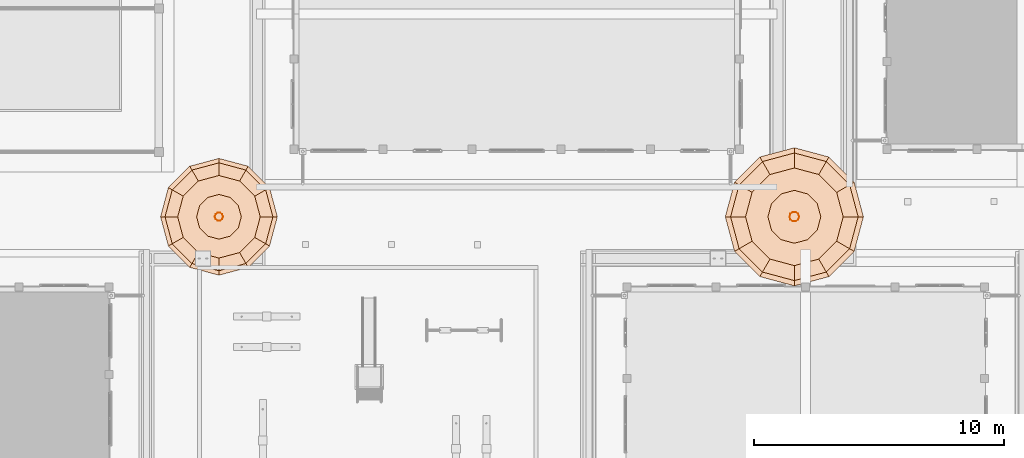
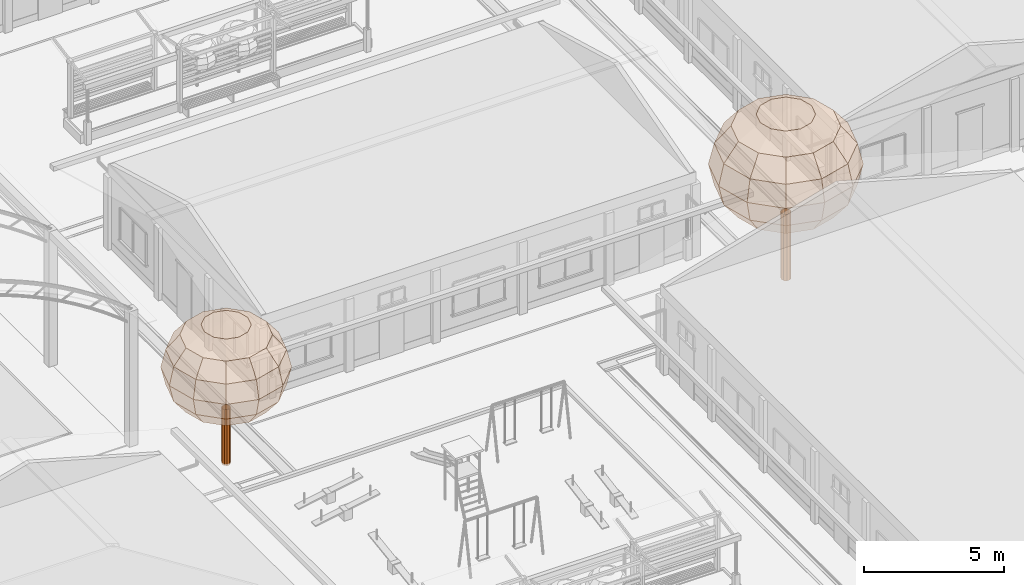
# One storey, part 169 of 177: 4 geographic elements.
"""IFC4 building model written with IfcOpenShell, lengths in metres."""

from ifc_helpers import new_model, si_unit, origin, origin_with_axes, place, context, subcontext, project, spatial, triangles, element, save


model = new_model("IFC4")

# Units and contexts
model_context = context("Model", 3, precision=1e-05, world=origin_with_axes())
body_context = subcontext(model_context, "Body", "Model", "MODEL_VIEW")
ifc_project = project(units=[si_unit("LENGTHUNIT", "METRE"), si_unit("AREAUNIT", "SQUARE_METRE"), si_unit("VOLUMEUNIT", "CUBIC_METRE"), si_unit("PLANEANGLEUNIT", "RADIAN")], contexts=[model_context])

# Site, building, storey
site_placement = place(None, origin_with_axes())
site = spatial("IfcSite", under=ifc_project, at=site_placement, Name="Predio Los Mangos - Morales, San Martín", CompositionType="ELEMENT")
building_placement = place(site_placement, origin())
building = spatial("IfcBuilding", under=site, at=building_placement, Name="Hogar de Refugio Temporal", CompositionType="ELEMENT")
storey_placement = place(building_placement, origin())
storey = spatial("IfcBuildingStorey", under=building, at=storey_placement, Name="NIVEL 1 (NPT +0.00)", CompositionType="ELEMENT", Elevation=0.0)

# Geographic elements
geographic_element_1_placement = place(storey_placement, origin())
element("IfcGeographicElement", 1, at=geographic_element_1_placement, inside=storey, Name="arbol_tronco", ObjectType="Árbol", PredefinedType="NOTDEFINED", context=body_context, shape_type="Tessellation", body=[
    triangles([(29.1624, 90.0, 0.0), (29.1314, 90.0954, 0.0), (29.0502, 90.1544, 0.0), (28.9498, 90.1544, 0.0), (28.8686, 90.0954, 0.0), (28.8376, 90.0, 0.0), (28.8686, 89.9046, 0.0), (28.9498, 89.8456, 0.0), (29.0502, 89.8456, 0.0), (29.1314, 89.9046, 0.0), (29.1624, 90.0, 2.4354), (29.1314, 90.0954, 2.4354), (29.0502, 90.1544, 2.4354), (28.9498, 90.1544, 2.4354), (28.8686, 90.0954, 2.4354), (28.8376, 90.0, 2.4354), (28.8686, 89.9046, 2.4354), (28.9498, 89.8456, 2.4354), (29.0502, 89.8456, 2.4354), (29.1314, 89.9046, 2.4354)], [[1, 2, 12], [2, 3, 13], [3, 4, 14], [4, 5, 15], [5, 6, 16], [6, 7, 17], [7, 8, 18], [8, 9, 19], [9, 10, 20], [10, 1, 11], [1, 12, 11], [2, 13, 12], [3, 14, 13], [4, 15, 14], [5, 16, 15], [6, 17, 16], [7, 18, 17], [8, 19, 18], [9, 20, 19], [10, 11, 20]]),
])
geographic_element_2_placement = place(storey_placement, origin())
element("IfcGeographicElement", 2, at=geographic_element_2_placement, inside=storey, Name="arbol_copa", ObjectType="Árbol", PredefinedType="NOTDEFINED", context=body_context, shape_type="Tessellation", body=[
    triangles([(29.0, 90.0, 6.1697), (29.0, 90.0, 6.1697), (29.0, 90.0, 6.1697), (29.0, 90.0, 6.1697), (29.0, 90.0, 6.1697), (29.0, 90.0, 6.1697), (29.0, 90.0, 6.1697), (29.0, 90.0, 6.1697), (29.0, 90.0, 6.1697), (29.0, 90.0, 6.1697), (29.0, 90.0, 6.1697), (29.0, 90.0, 6.1697), (29.8932, 90.0, 6.0187), (29.7735, 90.4466, 6.0187), (29.4466, 90.7735, 6.0187), (29.0, 90.8932, 6.0187), (28.5534, 90.7735, 6.0187), (28.2265, 90.4466, 6.0187), (28.1068, 90.0, 6.0187), (28.2265, 89.5534, 6.0187), (28.5534, 89.2265, 6.0187), (29.0, 89.1068, 6.0187), (29.4466, 89.2265, 6.0187), (29.7735, 89.5534, 6.0187), (30.6503, 90.0, 5.5887), (30.4292, 90.8252, 5.5887), (29.8252, 91.4292, 5.5887), (29.0, 91.6503, 5.5887), (28.1748, 91.4292, 5.5887), (27.5708, 90.8252, 5.5887), (27.3497, 90.0, 5.5887), (27.5708, 89.1748, 5.5887), (28.1748, 88.5708, 5.5887), (29.0, 88.3497, 5.5887), (29.8252, 88.5708, 5.5887), (30.4292, 89.1748, 5.5887), (31.1563, 90.0, 4.9451), (30.8674, 91.0781, 4.9451), (30.0781, 91.8674, 4.9451), (29.0, 92.1563, 4.9451), (27.9219, 91.8674, 4.9451), (27.1326, 91.0781, 4.9451), (26.8437, 90.0, 4.9451), (27.1326, 88.9219, 4.9451), (27.9219, 88.1326, 4.9451), (29.0, 87.8437, 4.9451), (30.0781, 88.1326, 4.9451), (30.8674, 88.9219, 4.9451), (31.3339, 90.0, 4.1859), (31.0213, 91.167, 4.1859), (30.167, 92.0213, 4.1859), (29.0, 92.3339, 4.1859), (27.833, 92.0213, 4.1859), (26.9787, 91.167, 4.1859), (26.6661, 90.0, 4.1859), (26.9787, 88.833, 4.1859), (27.833, 87.9787, 4.1859), (29.0, 87.6661, 4.1859), (30.167, 87.9787, 4.1859), (31.0213, 88.833, 4.1859), (31.1563, 90.0, 3.4267), (30.8674, 91.0781, 3.4267), (30.0781, 91.8674, 3.4267), (29.0, 92.1563, 3.4267), (27.9219, 91.8674, 3.4267), (27.1326, 91.0781, 3.4267), (26.8437, 90.0, 3.4267), (27.1326, 88.9219, 3.4267), (27.9219, 88.1326, 3.4267), (29.0, 87.8437, 3.4267), (30.0781, 88.1326, 3.4267), (30.8674, 88.9219, 3.4267), (30.6503, 90.0, 2.7831), (30.4292, 90.8252, 2.7831), (29.8252, 91.4292, 2.7831), (29.0, 91.6503, 2.7831), (28.1748, 91.4292, 2.7831), (27.5708, 90.8252, 2.7831), (27.3497, 90.0, 2.7831), (27.5708, 89.1748, 2.7831), (28.1748, 88.5708, 2.7831), (29.0, 88.3497, 2.7831), (29.8252, 88.5708, 2.7831), (30.4292, 89.1748, 2.7831), (29.8932, 90.0, 2.353), (29.7735, 90.4466, 2.353), (29.4466, 90.7735, 2.353), (29.0, 90.8932, 2.353), (28.5534, 90.7735, 2.353), (28.2265, 90.4466, 2.353), (28.1068, 90.0, 2.353), (28.2265, 89.5534, 2.353), (28.5534, 89.2265, 2.353), (29.0, 89.1068, 2.353), (29.4466, 89.2265, 2.353), (29.7735, 89.5534, 2.353), (29.0, 90.0, 2.202), (29.0, 90.0, 2.202), (29.0, 90.0, 2.202), (29.0, 90.0, 2.202), (29.0, 90.0, 2.202), (29.0, 90.0, 2.202), (29.0, 90.0, 2.202), (29.0, 90.0, 2.202), (29.0, 90.0, 2.202), (29.0, 90.0, 2.202), (29.0, 90.0, 2.202), (29.0, 90.0, 2.202)], [[1, 2, 14], [1, 14, 13], [2, 3, 15], [2, 15, 14], [3, 4, 16], [3, 16, 15], [4, 5, 17], [4, 17, 16], [5, 6, 18], [5, 18, 17], [6, 7, 19], [6, 19, 18], [7, 8, 20], [7, 20, 19], [8, 9, 21], [8, 21, 20], [9, 10, 22], [9, 22, 21], [10, 11, 23], [10, 23, 22], [11, 12, 24], [11, 24, 23], [12, 1, 13], [12, 13, 24], [13, 14, 26], [13, 26, 25], [14, 15, 27], [14, 27, 26], [15, 16, 28], [15, 28, 27], [16, 17, 29], [16, 29, 28], [17, 18, 30], [17, 30, 29], [18, 19, 31], [18, 31, 30], [19, 20, 32], [19, 32, 31], [20, 21, 33], [20, 33, 32], [21, 22, 34], [21, 34, 33], [22, 23, 35], [22, 35, 34], [23, 24, 36], [23, 36, 35], [24, 13, 25], [24, 25, 36], [25, 26, 38], [25, 38, 37], [26, 27, 39], [26, 39, 38], [27, 28, 40], [27, 40, 39], [28, 29, 41], [28, 41, 40], [29, 30, 42], [29, 42, 41], [30, 31, 43], [30, 43, 42], [31, 32, 44], [31, 44, 43], [32, 33, 45], [32, 45, 44], [33, 34, 46], [33, 46, 45], [34, 35, 47], [34, 47, 46], [35, 36, 48], [35, 48, 47], [36, 25, 37], [36, 37, 48], [37, 38, 50], [37, 50, 49], [38, 39, 51], [38, 51, 50], [39, 40, 52], [39, 52, 51], [40, 41, 53], [40, 53, 52], [41, 42, 54], [41, 54, 53], [42, 43, 55], [42, 55, 54], [43, 44, 56], [43, 56, 55], [44, 45, 57], [44, 57, 56], [45, 46, 58], [45, 58, 57], [46, 47, 59], [46, 59, 58], [47, 48, 60], [47, 60, 59], [48, 37, 49], [48, 49, 60], [49, 50, 62], [49, 62, 61], [50, 51, 63], [50, 63, 62], [51, 52, 64], [51, 64, 63], [52, 53, 65], [52, 65, 64], [53, 54, 66], [53, 66, 65], [54, 55, 67], [54, 67, 66], [55, 56, 68], [55, 68, 67], [56, 57, 69], [56, 69, 68], [57, 58, 70], [57, 70, 69], [58, 59, 71], [58, 71, 70], [59, 60, 72], [59, 72, 71], [60, 49, 61], [60, 61, 72], [61, 62, 74], [61, 74, 73], [62, 63, 75], [62, 75, 74], [63, 64, 76], [63, 76, 75], [64, 65, 77], [64, 77, 76], [65, 66, 78], [65, 78, 77], [66, 67, 79], [66, 79, 78], [67, 68, 80], [67, 80, 79], [68, 69, 81], [68, 81, 80], [69, 70, 82], [69, 82, 81], [70, 71, 83], [70, 83, 82], [71, 72, 84], [71, 84, 83], [72, 61, 73], [72, 73, 84], [73, 74, 86], [73, 86, 85], [74, 75, 87], [74, 87, 86], [75, 76, 88], [75, 88, 87], [76, 77, 89], [76, 89, 88], [77, 78, 90], [77, 90, 89], [78, 79, 91], [78, 91, 90], [79, 80, 92], [79, 92, 91], [80, 81, 93], [80, 93, 92], [81, 82, 94], [81, 94, 93], [82, 83, 95], [82, 95, 94], [83, 84, 96], [83, 96, 95], [84, 73, 85], [84, 85, 96], [85, 86, 98], [85, 98, 97], [86, 87, 99], [86, 99, 98], [87, 88, 100], [87, 100, 99], [88, 89, 101], [88, 101, 100], [89, 90, 102], [89, 102, 101], [90, 91, 103], [90, 103, 102], [91, 92, 104], [91, 104, 103], [92, 93, 105], [92, 105, 104], [93, 94, 106], [93, 106, 105], [94, 95, 107], [94, 107, 106], [95, 96, 108], [95, 108, 107], [96, 85, 97], [96, 97, 108]]),
])
geographic_element_3_placement = place(storey_placement, origin())
element("IfcGeographicElement", 3, at=geographic_element_3_placement, inside=storey, Name="arbol_tronco", ObjectType="Árbol", PredefinedType="NOTDEFINED", context=body_context, shape_type="Tessellation", body=[
    triangles([(52.192, 90.0, 0.0), (52.1553, 90.1129, 0.0), (52.0593, 90.1826, 0.0), (51.9407, 90.1826, 0.0), (51.8447, 90.1129, 0.0), (51.808, 90.0, 0.0), (51.8447, 89.8871, 0.0), (51.9407, 89.8174, 0.0), (52.0593, 89.8174, 0.0), (52.1553, 89.8871, 0.0), (52.192, 90.0, 2.8802), (52.1553, 90.1129, 2.8802), (52.0593, 90.1826, 2.8802), (51.9407, 90.1826, 2.8802), (51.8447, 90.1129, 2.8802), (51.808, 90.0, 2.8802), (51.8447, 89.8871, 2.8802), (51.9407, 89.8174, 2.8802), (52.0593, 89.8174, 2.8802), (52.1553, 89.8871, 2.8802)], [[1, 2, 12], [2, 3, 13], [3, 4, 14], [4, 5, 15], [5, 6, 16], [6, 7, 17], [7, 8, 18], [8, 9, 19], [9, 10, 20], [10, 1, 11], [1, 12, 11], [2, 13, 12], [3, 14, 13], [4, 15, 14], [5, 16, 15], [6, 17, 16], [7, 18, 17], [8, 19, 18], [9, 20, 19], [10, 11, 20]]),
])
geographic_element_4_placement = place(storey_placement, origin())
element("IfcGeographicElement", 4, at=geographic_element_4_placement, inside=storey, Name="arbol_copa", ObjectType="Árbol", PredefinedType="NOTDEFINED", context=body_context, shape_type="Tessellation", body=[
    triangles([(52.0, 90.0, 7.2966), (52.0, 90.0, 7.2966), (52.0, 90.0, 7.2966), (52.0, 90.0, 7.2966), (52.0, 90.0, 7.2966), (52.0, 90.0, 7.2966), (52.0, 90.0, 7.2966), (52.0, 90.0, 7.2966), (52.0, 90.0, 7.2966), (52.0, 90.0, 7.2966), (52.0, 90.0, 7.2966), (52.0, 90.0, 7.2966), (53.0563, 90.0, 7.118), (52.9148, 90.5281, 7.118), (52.5281, 90.9148, 7.118), (52.0, 91.0563, 7.118), (51.4719, 90.9148, 7.118), (51.0852, 90.5281, 7.118), (50.9437, 90.0, 7.118), (51.0852, 89.4719, 7.118), (51.4719, 89.0852, 7.118), (52.0, 88.9437, 7.118), (52.5281, 89.0852, 7.118), (52.9148, 89.4719, 7.118), (53.9518, 90.0, 6.6094), (53.6903, 90.9759, 6.6094), (52.9759, 91.6903, 6.6094), (52.0, 91.9518, 6.6094), (51.0241, 91.6903, 6.6094), (50.3097, 90.9759, 6.6094), (50.0482, 90.0, 6.6094), (50.3097, 89.0241, 6.6094), (51.0241, 88.3097, 6.6094), (52.0, 88.0482, 6.6094), (52.9759, 88.3097, 6.6094), (53.6903, 89.0241, 6.6094), (54.5501, 90.0, 5.8482), (54.2085, 91.2751, 5.8482), (53.2751, 92.2085, 5.8482), (52.0, 92.5501, 5.8482), (50.7249, 92.2085, 5.8482), (49.7915, 91.2751, 5.8482), (49.4499, 90.0, 5.8482), (49.7915, 88.7249, 5.8482), (50.7249, 87.7915, 5.8482), (52.0, 87.4499, 5.8482), (53.2751, 87.7915, 5.8482), (54.2085, 88.7249, 5.8482), (54.7602, 90.0, 4.9504), (54.3904, 91.3801, 4.9504), (53.3801, 92.3904, 4.9504), (52.0, 92.7602, 4.9504), (50.6199, 92.3904, 4.9504), (49.6096, 91.3801, 4.9504), (49.2398, 90.0, 4.9504), (49.6096, 88.6199, 4.9504), (50.6199, 87.6096, 4.9504), (52.0, 87.2398, 4.9504), (53.3801, 87.6096, 4.9504), (54.3904, 88.6199, 4.9504), (54.5501, 90.0, 4.0525), (54.2085, 91.2751, 4.0525), (53.2751, 92.2085, 4.0525), (52.0, 92.5501, 4.0525), (50.7249, 92.2085, 4.0525), (49.7915, 91.2751, 4.0525), (49.4499, 90.0, 4.0525), (49.7915, 88.7249, 4.0525), (50.7249, 87.7915, 4.0525), (52.0, 87.4499, 4.0525), (53.2751, 87.7915, 4.0525), (54.2085, 88.7249, 4.0525), (53.9518, 90.0, 3.2914), (53.6903, 90.9759, 3.2914), (52.9759, 91.6903, 3.2914), (52.0, 91.9518, 3.2914), (51.0241, 91.6903, 3.2914), (50.3097, 90.9759, 3.2914), (50.0482, 90.0, 3.2914), (50.3097, 89.0241, 3.2914), (51.0241, 88.3097, 3.2914), (52.0, 88.0482, 3.2914), (52.9759, 88.3097, 3.2914), (53.6903, 89.0241, 3.2914), (53.0563, 90.0, 2.7828), (52.9148, 90.5281, 2.7828), (52.5281, 90.9148, 2.7828), (52.0, 91.0563, 2.7828), (51.4719, 90.9148, 2.7828), (51.0852, 90.5281, 2.7828), (50.9437, 90.0, 2.7828), (51.0852, 89.4719, 2.7828), (51.4719, 89.0852, 2.7828), (52.0, 88.9437, 2.7828), (52.5281, 89.0852, 2.7828), (52.9148, 89.4719, 2.7828), (52.0, 90.0, 2.6042), (52.0, 90.0, 2.6042), (52.0, 90.0, 2.6042), (52.0, 90.0, 2.6042), (52.0, 90.0, 2.6042), (52.0, 90.0, 2.6042), (52.0, 90.0, 2.6042), (52.0, 90.0, 2.6042), (52.0, 90.0, 2.6042), (52.0, 90.0, 2.6042), (52.0, 90.0, 2.6042), (52.0, 90.0, 2.6042)], [[1, 2, 14], [1, 14, 13], [2, 3, 15], [2, 15, 14], [3, 4, 16], [3, 16, 15], [4, 5, 17], [4, 17, 16], [5, 6, 18], [5, 18, 17], [6, 7, 19], [6, 19, 18], [7, 8, 20], [7, 20, 19], [8, 9, 21], [8, 21, 20], [9, 10, 22], [9, 22, 21], [10, 11, 23], [10, 23, 22], [11, 12, 24], [11, 24, 23], [12, 1, 13], [12, 13, 24], [13, 14, 26], [13, 26, 25], [14, 15, 27], [14, 27, 26], [15, 16, 28], [15, 28, 27], [16, 17, 29], [16, 29, 28], [17, 18, 30], [17, 30, 29], [18, 19, 31], [18, 31, 30], [19, 20, 32], [19, 32, 31], [20, 21, 33], [20, 33, 32], [21, 22, 34], [21, 34, 33], [22, 23, 35], [22, 35, 34], [23, 24, 36], [23, 36, 35], [24, 13, 25], [24, 25, 36], [25, 26, 38], [25, 38, 37], [26, 27, 39], [26, 39, 38], [27, 28, 40], [27, 40, 39], [28, 29, 41], [28, 41, 40], [29, 30, 42], [29, 42, 41], [30, 31, 43], [30, 43, 42], [31, 32, 44], [31, 44, 43], [32, 33, 45], [32, 45, 44], [33, 34, 46], [33, 46, 45], [34, 35, 47], [34, 47, 46], [35, 36, 48], [35, 48, 47], [36, 25, 37], [36, 37, 48], [37, 38, 50], [37, 50, 49], [38, 39, 51], [38, 51, 50], [39, 40, 52], [39, 52, 51], [40, 41, 53], [40, 53, 52], [41, 42, 54], [41, 54, 53], [42, 43, 55], [42, 55, 54], [43, 44, 56], [43, 56, 55], [44, 45, 57], [44, 57, 56], [45, 46, 58], [45, 58, 57], [46, 47, 59], [46, 59, 58], [47, 48, 60], [47, 60, 59], [48, 37, 49], [48, 49, 60], [49, 50, 62], [49, 62, 61], [50, 51, 63], [50, 63, 62], [51, 52, 64], [51, 64, 63], [52, 53, 65], [52, 65, 64], [53, 54, 66], [53, 66, 65], [54, 55, 67], [54, 67, 66], [55, 56, 68], [55, 68, 67], [56, 57, 69], [56, 69, 68], [57, 58, 70], [57, 70, 69], [58, 59, 71], [58, 71, 70], [59, 60, 72], [59, 72, 71], [60, 49, 61], [60, 61, 72], [61, 62, 74], [61, 74, 73], [62, 63, 75], [62, 75, 74], [63, 64, 76], [63, 76, 75], [64, 65, 77], [64, 77, 76], [65, 66, 78], [65, 78, 77], [66, 67, 79], [66, 79, 78], [67, 68, 80], [67, 80, 79], [68, 69, 81], [68, 81, 80], [69, 70, 82], [69, 82, 81], [70, 71, 83], [70, 83, 82], [71, 72, 84], [71, 84, 83], [72, 61, 73], [72, 73, 84], [73, 74, 86], [73, 86, 85], [74, 75, 87], [74, 87, 86], [75, 76, 88], [75, 88, 87], [76, 77, 89], [76, 89, 88], [77, 78, 90], [77, 90, 89], [78, 79, 91], [78, 91, 90], [79, 80, 92], [79, 92, 91], [80, 81, 93], [80, 93, 92], [81, 82, 94], [81, 94, 93], [82, 83, 95], [82, 95, 94], [83, 84, 96], [83, 96, 95], [84, 73, 85], [84, 85, 96], [85, 86, 98], [85, 98, 97], [86, 87, 99], [86, 99, 98], [87, 88, 100], [87, 100, 99], [88, 89, 101], [88, 101, 100], [89, 90, 102], [89, 102, 101], [90, 91, 103], [90, 103, 102], [91, 92, 104], [91, 104, 103], [92, 93, 105], [92, 105, 104], [93, 94, 106], [93, 106, 105], [94, 95, 107], [94, 107, 106], [95, 96, 108], [95, 108, 107], [96, 85, 97], [96, 97, 108]]),
])

save(model, "model.ifc")
